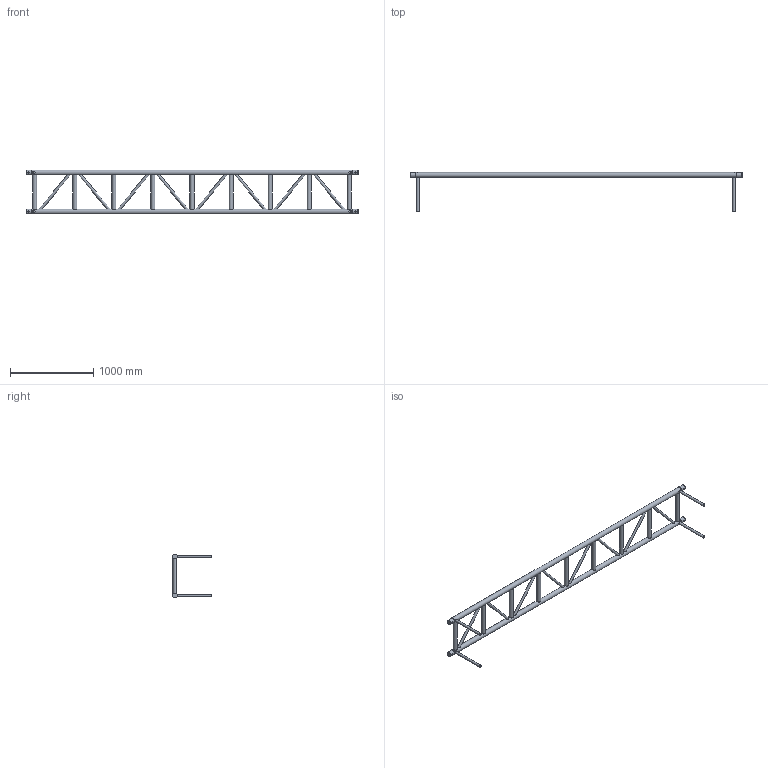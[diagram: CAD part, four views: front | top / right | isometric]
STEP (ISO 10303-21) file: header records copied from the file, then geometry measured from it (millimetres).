
FILE_DESCRIPTION(/* description */ ('C TOWER MAST SECTION 400 CM'),/* implementation_level */ '2;1');
FILE_NAME(/* name */ 'M:\Symbolen_NIEUW\STP\52-er truss\C52T\C52T-L400_111810008.stp',/* time_stamp */ '2017-12-15T15:48:32+01:00',/* author */ ('Kees'),/* organization */ (''),/* preprocessor_version */ 'ST-DEVELOPER v16.13',/* originating_system */ 'Autodesk Inventor 2018',/* authorisation */ '');
FILE_SCHEMA (('AUTOMOTIVE_DESIGN { 1 0 10303 214 3 1 1 }'));
Length unit declared in the file: millimetre
Products named in the file (1): 160009566
Bounding box: 4000 x 470 x 529.88 mm (x, y, z)
Volume: 32820967 mm3; surface area: 2720800.9 mm2
Topology: 26 solids, 27 shells, 193 faces, 367 edges, 228 vertices
Faces by surface type: cylinder 89, plane 80, cone 24
Full cylindrical faces by diameter (mm): 15.419 x4, 30 x12, 48.3 x9, 58.8 x4, 60 x2
Entity records: 6894 total; most frequent: CARTESIAN_POINT 3188, ORIENTED_EDGE 680, DIRECTION 664, EDGE_CURVE 340, AXIS2_PLACEMENT_3D 272, EDGE_LOOP 260, VERTEX_POINT 252, STYLED_ITEM 152
